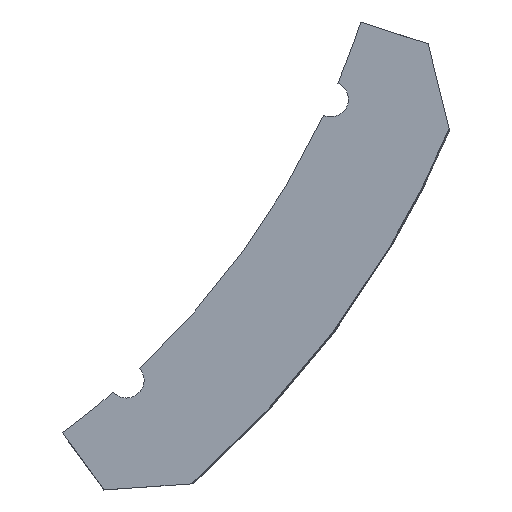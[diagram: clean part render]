
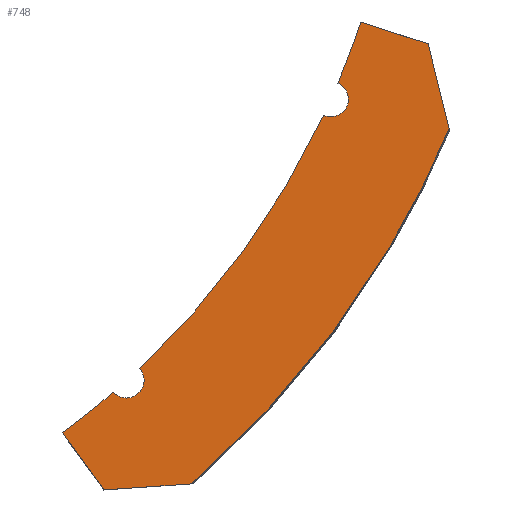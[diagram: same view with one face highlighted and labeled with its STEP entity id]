
A CAD part, top view. The second image highlights one B-rep face of the part: STEP entity #748.
In plain terms, the highlighted planar face has unit normal (0, 0, 1).
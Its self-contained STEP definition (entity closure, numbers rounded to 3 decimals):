
#541=VECTOR('Line Direction',#540,1.) ;
#588=VECTOR('Line Direction',#587,1.) ;
#609=VECTOR('Line Direction',#608,1.) ;
#667=VECTOR('Line Direction',#666,1.) ;
#153=DIRECTION('Axis2P3D Direction',(0.,0.,1.)) ;
#184=DIRECTION('Axis2P3D Direction',(0.,0.,1.)) ;
#208=DIRECTION('Axis2P3D Direction',(0.,0.,1.)) ;
#232=DIRECTION('Axis2P3D Direction',(0.,0.,1.)) ;
#249=DIRECTION('Axis2P3D Direction',(0.,0.,1.)) ;
#273=DIRECTION('Axis2P3D Direction',(0.,0.,1.)) ;
#292=DIRECTION('Axis2P3D Direction',(0.,0.,1.)) ;
#325=DIRECTION('Axis2P3D Direction',(0.,0.,1.)) ;
#342=DIRECTION('Axis2P3D Direction',(0.,0.,1.)) ;
#540=DIRECTION('Vector Direction',(0.588,-0.809,0.)) ;
#587=DIRECTION('Vector Direction',(0.998,0.07,0.)) ;
#608=DIRECTION('Vector Direction',(0.242,-0.97,0.)) ;
#666=DIRECTION('Vector Direction',(0.951,-0.309,0.)) ;
#728=DIRECTION('Axis2P3D Direction',(0.,0.,1.)) ;
#729=DIRECTION('Axis2P3D XDirection',(1.,0.,0.)) ;
#149=CARTESIAN_POINT('Vertex',(1242.931,-780.688,101.5)) ;
#152=CARTESIAN_POINT('Axis2P3D Location',(1244.18,-777.96,101.5)) ;
#156=CARTESIAN_POINT('Vertex',(1244.18,-780.96,101.5)) ;
#180=CARTESIAN_POINT('Vertex',(1211.559,-823.867,101.5)) ;
#183=CARTESIAN_POINT('Axis2P3D Location',(1114.,-720.,101.5)) ;
#204=CARTESIAN_POINT('Vertex',(1212.351,-825.898,101.5)) ;
#207=CARTESIAN_POINT('Axis2P3D Location',(1209.351,-825.898,101.5)) ;
#228=CARTESIAN_POINT('Vertex',(1209.351,-828.898,101.5)) ;
#231=CARTESIAN_POINT('Axis2P3D Location',(1209.351,-825.898,101.5)) ;
#248=CARTESIAN_POINT('Axis2P3D Location',(1244.18,-777.96,101.5)) ;
#252=CARTESIAN_POINT('Vertex',(1247.18,-777.96,101.5)) ;
#272=CARTESIAN_POINT('Axis2P3D Location',(1244.18,-777.96,101.5)) ;
#276=CARTESIAN_POINT('Vertex',(1245.372,-775.207,101.5)) ;
#291=CARTESIAN_POINT('Axis2P3D Location',(1114.,-720.,101.5)) ;
#295=CARTESIAN_POINT('Vertex',(1249.276,-764.795,101.5)) ;
#314=CARTESIAN_POINT('Vertex',(1207.101,-827.882,101.5)) ;
#321=CARTESIAN_POINT('Vertex',(1198.405,-834.813,101.5)) ;
#324=CARTESIAN_POINT('Axis2P3D Location',(1114.,-720.,101.5)) ;
#341=CARTESIAN_POINT('Axis2P3D Location',(1209.351,-825.898,101.5)) ;
#419=CARTESIAN_POINT('Control Point',(1220.343,-843.53,101.5)) ;
#420=CARTESIAN_POINT('Control Point',(1231.792,-833.674,101.5)) ;
#421=CARTESIAN_POINT('Control Point',(1242.1,-822.49,101.5)) ;
#422=CARTESIAN_POINT('Control Point',(1251.058,-810.163,101.5)) ;
#423=CARTESIAN_POINT('Control Point',(1258.51,-796.9,101.5)) ;
#424=CARTESIAN_POINT('Control Point',(1264.346,-782.965,101.5)) ;
#425=CARTESIAN_POINT('Vertex',(1220.343,-843.53,101.5)) ;
#427=CARTESIAN_POINT('Vertex',(1264.346,-782.965,101.5)) ;
#536=CARTESIAN_POINT('Vertex',(1205.493,-844.569,101.5)) ;
#539=CARTESIAN_POINT('Line Origine',(1201.951,-839.693,101.5)) ;
#586=CARTESIAN_POINT('Line Origine',(1214.666,-843.927,101.5)) ;
#607=CARTESIAN_POINT('Line Origine',(1262.969,-777.443,101.5)) ;
#611=CARTESIAN_POINT('Vertex',(1260.745,-768.521,101.5)) ;
#665=CARTESIAN_POINT('Line Origine',(1255.014,-766.659,101.5)) ;
#727=CARTESIAN_POINT('Axis2P3D Location',(0.,0.,101.5)) ;
#154=AXIS2_PLACEMENT_3D('Circle Axis2P3D',#152,#153,$) ;
#185=AXIS2_PLACEMENT_3D('Circle Axis2P3D',#183,#184,$) ;
#209=AXIS2_PLACEMENT_3D('Circle Axis2P3D',#207,#208,$) ;
#233=AXIS2_PLACEMENT_3D('Circle Axis2P3D',#231,#232,$) ;
#250=AXIS2_PLACEMENT_3D('Circle Axis2P3D',#248,#249,$) ;
#274=AXIS2_PLACEMENT_3D('Circle Axis2P3D',#272,#273,$) ;
#293=AXIS2_PLACEMENT_3D('Circle Axis2P3D',#291,#292,$) ;
#326=AXIS2_PLACEMENT_3D('Circle Axis2P3D',#324,#325,$) ;
#343=AXIS2_PLACEMENT_3D('Circle Axis2P3D',#341,#342,$) ;
#730=AXIS2_PLACEMENT_3D('Plane Axis2P3D',#727,#728,#729) ;
#158=EDGE_CURVE('',#150,#157,#155,.T.) ;
#187=EDGE_CURVE('',#181,#150,#186,.T.) ;
#211=EDGE_CURVE('',#181,#205,#210,.F.) ;
#235=EDGE_CURVE('',#229,#205,#234,.T.) ;
#254=EDGE_CURVE('',#253,#157,#251,.F.) ;
#278=EDGE_CURVE('',#277,#253,#275,.F.) ;
#297=EDGE_CURVE('',#277,#296,#294,.T.) ;
#328=EDGE_CURVE('',#322,#315,#327,.T.) ;
#345=EDGE_CURVE('',#315,#229,#344,.T.) ;
#429=EDGE_CURVE('',#426,#428,#418,.T.) ;
#543=EDGE_CURVE('',#322,#537,#542,.T.) ;
#590=EDGE_CURVE('',#426,#537,#589,.F.) ;
#613=EDGE_CURVE('',#428,#612,#610,.F.) ;
#669=EDGE_CURVE('',#296,#612,#668,.T.) ;
#731=PLANE('Plane',#730) ;
#733=ORIENTED_EDGE('',*,*,#278,.T.) ;
#734=ORIENTED_EDGE('',*,*,#254,.T.) ;
#735=ORIENTED_EDGE('',*,*,#158,.F.) ;
#736=ORIENTED_EDGE('',*,*,#187,.F.) ;
#737=ORIENTED_EDGE('',*,*,#211,.T.) ;
#738=ORIENTED_EDGE('',*,*,#235,.F.) ;
#739=ORIENTED_EDGE('',*,*,#345,.F.) ;
#740=ORIENTED_EDGE('',*,*,#328,.F.) ;
#741=ORIENTED_EDGE('',*,*,#543,.T.) ;
#742=ORIENTED_EDGE('',*,*,#590,.F.) ;
#743=ORIENTED_EDGE('',*,*,#429,.T.) ;
#744=ORIENTED_EDGE('',*,*,#613,.T.) ;
#745=ORIENTED_EDGE('',*,*,#669,.F.) ;
#746=ORIENTED_EDGE('',*,*,#297,.F.) ;
#542=LINE('Line',#539,#541) ;
#589=LINE('Line',#586,#588) ;
#610=LINE('Line',#607,#609) ;
#668=LINE('Line',#665,#667) ;
#748=ADVANCED_FACE('CNC_20240618',(#747),#731,.T.) ;
#155=CIRCLE('generated circle',#154,3.) ;
#186=CIRCLE('generated circle',#185,142.5) ;
#210=CIRCLE('generated circle',#209,3.) ;
#234=CIRCLE('generated circle',#233,3.) ;
#251=CIRCLE('generated circle',#250,3.) ;
#275=CIRCLE('generated circle',#274,3.) ;
#294=CIRCLE('generated circle',#293,142.5) ;
#327=CIRCLE('generated circle',#326,142.5) ;
#344=CIRCLE('generated circle',#343,3.) ;
#150=VERTEX_POINT('',#149) ;
#157=VERTEX_POINT('',#156) ;
#181=VERTEX_POINT('',#180) ;
#205=VERTEX_POINT('',#204) ;
#229=VERTEX_POINT('',#228) ;
#253=VERTEX_POINT('',#252) ;
#277=VERTEX_POINT('',#276) ;
#296=VERTEX_POINT('',#295) ;
#315=VERTEX_POINT('',#314) ;
#322=VERTEX_POINT('',#321) ;
#426=VERTEX_POINT('',#425) ;
#428=VERTEX_POINT('',#427) ;
#537=VERTEX_POINT('',#536) ;
#612=VERTEX_POINT('',#611) ;
#418=B_SPLINE_CURVE_WITH_KNOTS('',5,(#419,#420,#421,#422,#423,#424),.UNSPECIFIED.,.F.,.U.,(6,6),(0.,107.533),.UNSPECIFIED.) ;
#732=EDGE_LOOP('',(#733,#734,#735,#736,#737,#738,#739,#740,#741,#742,#743,#744,#745,#746)) ;
#747=FACE_OUTER_BOUND('',#732,.T.) ;
